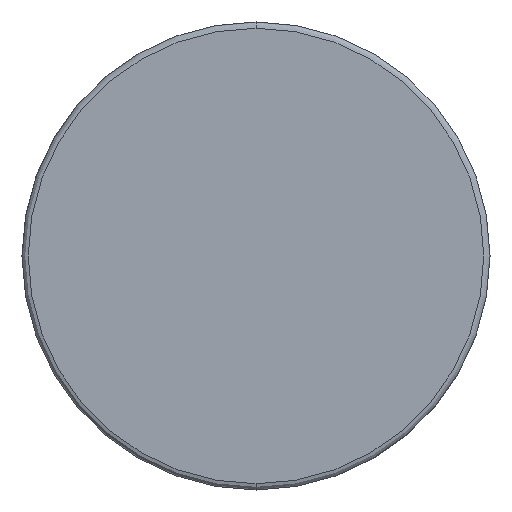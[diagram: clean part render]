
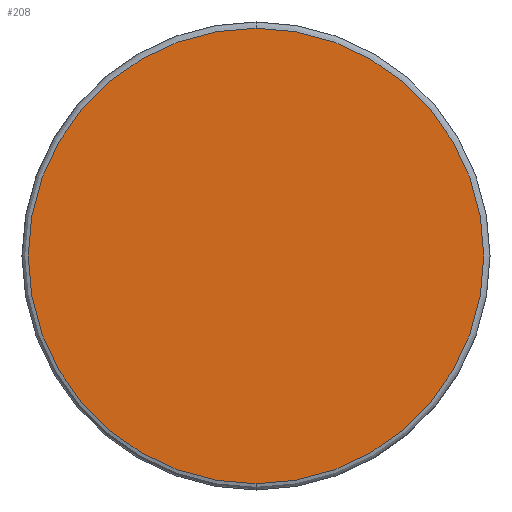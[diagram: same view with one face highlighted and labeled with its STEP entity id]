
A CAD part, front view. The second image highlights one B-rep face of the part: STEP entity #208.
In plain terms, the highlighted planar face has unit normal (0, -1, 0).
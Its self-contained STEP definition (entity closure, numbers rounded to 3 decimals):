
#143 = CIRCLE ( 'NONE', #361, 14.6 ) ;
#159 = VERTEX_POINT ( 'NONE', #683 ) ;
#173 = DIRECTION ( 'NONE',  ( 0., 0., 1. ) ) ;
#174 = DIRECTION ( 'NONE',  ( 0., -1., 0. ) ) ;
#175 = CARTESIAN_POINT ( 'NONE',  ( 0., 0., 0. ) ) ;
#179 = EDGE_LOOP ( 'NONE', ( #314, #668 ) ) ;
#208 = ADVANCED_FACE ( 'NONE', ( #274 ), #690, .F. ) ;
#274 = FACE_OUTER_BOUND ( 'NONE', #179, .T. ) ;
#314 = ORIENTED_EDGE ( 'NONE', *, *, #548, .T. ) ;
#338 = DIRECTION ( 'NONE',  ( 0., 0., 1. ) ) ;
#340 = DIRECTION ( 'NONE',  ( 0., -1., 0. ) ) ;
#341 = CARTESIAN_POINT ( 'NONE',  ( 0., 0., 0. ) ) ;
#347 = CIRCLE ( 'NONE', #399, 14.6 ) ;
#361 = AXIS2_PLACEMENT_3D ( 'NONE', #175, #174, #173 ) ;
#399 = AXIS2_PLACEMENT_3D ( 'NONE', #341, #340, #338 ) ;
#467 = AXIS2_PLACEMENT_3D ( 'NONE', #685, #669, #696 ) ;
#476 = VERTEX_POINT ( 'NONE', #502 ) ;
#502 = CARTESIAN_POINT ( 'NONE',  ( 0., 0., -14.6 ) ) ;
#548 = EDGE_CURVE ( 'NONE', #159, #476, #347, .T. ) ;
#591 = EDGE_CURVE ( 'NONE', #476, #159, #143, .T. ) ;
#668 = ORIENTED_EDGE ( 'NONE', *, *, #591, .T. ) ;
#669 = DIRECTION ( 'NONE',  ( 0., 1., 0. ) ) ;
#683 = CARTESIAN_POINT ( 'NONE',  ( 0., 0., 14.6 ) ) ;
#685 = CARTESIAN_POINT ( 'NONE',  ( 0., 0., 0. ) ) ;
#690 = PLANE ( 'NONE',  #467 ) ;
#696 = DIRECTION ( 'NONE',  ( 0., 0., 1. ) ) ;
